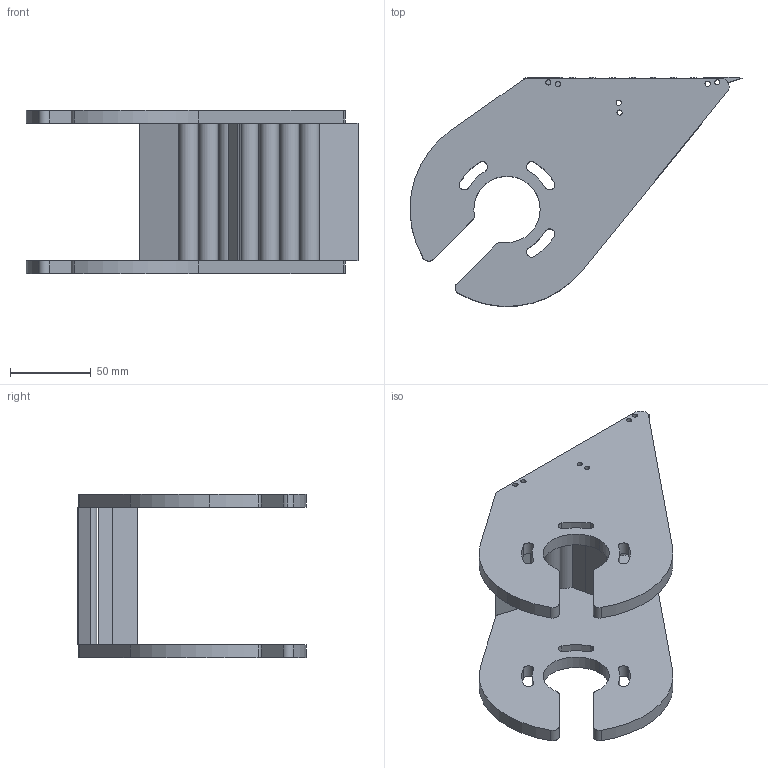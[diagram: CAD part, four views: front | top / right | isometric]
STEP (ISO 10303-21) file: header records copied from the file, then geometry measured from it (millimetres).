
FILE_DESCRIPTION (( 'STEP AP214' ), '1' );
FILE_NAME ('FMTB A85FI.STEP', '2024-01-31T08:47:25', ( '' ), ( '' ), 'SwSTEP 2.0', 'SolidWorks 2022', '' );
FILE_SCHEMA (( 'AUTOMOTIVE_DESIGN' ));
Length unit declared in the file: millimetre
Products named in the file (1): FMTB A85FI
Bounding box: 205.28 x 141.52 x 101 mm (x, y, z)
Volume: 329561.1 mm3; surface area: 114926.8 mm2
Topology: 1 solids, 1 shells, 218 faces, 648 edges, 420 vertices
Faces by surface type: cylinder 128, plane 90
Entity records: 8030 total; most frequent: DIRECTION 1374, ORIENTED_EDGE 1296, CARTESIAN_POINT 1287, EDGE_CURVE 648, AXIS2_PLACEMENT_3D 507, VERTEX_POINT 420, VECTOR 360, LINE 360
